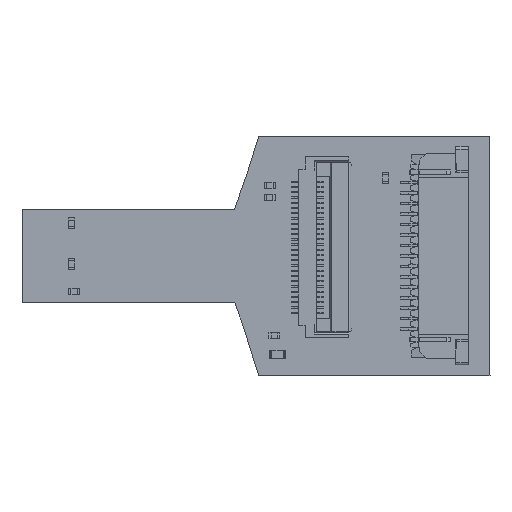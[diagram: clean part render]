
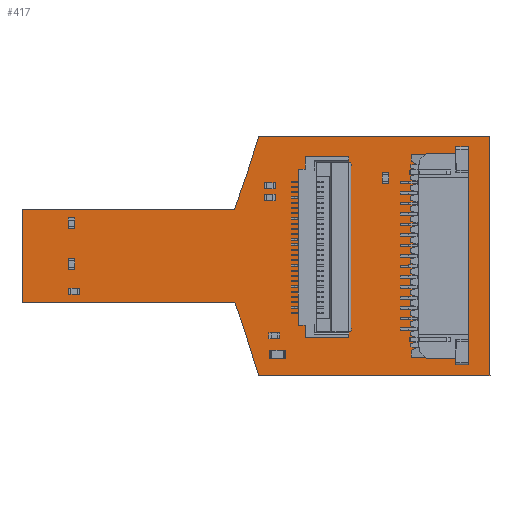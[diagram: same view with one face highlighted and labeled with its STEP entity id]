
A CAD part, top view. The second image highlights one B-rep face of the part: STEP entity #417.
In plain terms, the highlighted planar face has unit normal (0, 0, 1).
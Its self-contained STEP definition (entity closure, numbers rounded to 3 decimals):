
#96 = VERTEX_POINT('',#97);
#97 = CARTESIAN_POINT('',(49.276,25.4,1.051));
#103 = EDGE_CURVE('',#96,#104,#106,.T.);
#104 = VERTEX_POINT('',#105);
#105 = CARTESIAN_POINT('',(47.803,30.099,1.051));
#106 = LINE('',#107,#108);
#107 = CARTESIAN_POINT('',(49.276,25.4,1.051));
#108 = VECTOR('',#109,1.);
#109 = DIRECTION('',(-0.299,0.954,0.));
#134 = EDGE_CURVE('',#104,#135,#137,.T.);
#135 = VERTEX_POINT('',#136);
#136 = CARTESIAN_POINT('',(46.99,32.385,1.051));
#137 = LINE('',#138,#139);
#138 = CARTESIAN_POINT('',(47.803,30.099,1.051));
#139 = VECTOR('',#140,1.);
#140 = DIRECTION('',(-0.335,0.942,0.));
#165 = EDGE_CURVE('',#135,#166,#168,.T.);
#166 = VERTEX_POINT('',#167);
#167 = CARTESIAN_POINT('',(26.67,32.385,1.051));
#168 = LINE('',#169,#170);
#169 = CARTESIAN_POINT('',(46.99,32.385,1.051));
#170 = VECTOR('',#171,1.);
#171 = DIRECTION('',(-1.,0.,0.));
#196 = EDGE_CURVE('',#166,#197,#199,.T.);
#197 = VERTEX_POINT('',#198);
#198 = CARTESIAN_POINT('',(26.67,41.275,1.051));
#199 = LINE('',#200,#201);
#200 = CARTESIAN_POINT('',(26.67,32.385,1.051));
#201 = VECTOR('',#202,1.);
#202 = DIRECTION('',(0.,1.,0.));
#227 = EDGE_CURVE('',#197,#228,#230,.T.);
#228 = VERTEX_POINT('',#229);
#229 = CARTESIAN_POINT('',(46.965,41.275,1.051));
#230 = LINE('',#231,#232);
#231 = CARTESIAN_POINT('',(26.67,41.275,1.051));
#232 = VECTOR('',#233,1.);
#233 = DIRECTION('',(1.,0.,0.));
#258 = EDGE_CURVE('',#228,#259,#261,.T.);
#259 = VERTEX_POINT('',#260);
#260 = CARTESIAN_POINT('',(48.171,44.691,1.051));
#261 = LINE('',#262,#263);
#262 = CARTESIAN_POINT('',(46.965,41.275,1.051));
#263 = VECTOR('',#264,1.);
#264 = DIRECTION('',(0.333,0.943,0.));
#289 = EDGE_CURVE('',#259,#290,#292,.T.);
#290 = VERTEX_POINT('',#291);
#291 = CARTESIAN_POINT('',(49.276,48.235,1.051));
#292 = LINE('',#293,#294);
#293 = CARTESIAN_POINT('',(48.171,44.691,1.051));
#294 = VECTOR('',#295,1.);
#295 = DIRECTION('',(0.298,0.955,0.));
#320 = EDGE_CURVE('',#290,#321,#323,.T.);
#321 = VERTEX_POINT('',#322);
#322 = CARTESIAN_POINT('',(71.363,48.231,1.051));
#323 = LINE('',#324,#325);
#324 = CARTESIAN_POINT('',(49.276,48.235,1.051));
#325 = VECTOR('',#326,1.);
#326 = DIRECTION('',(1.,0.,0.));
#351 = EDGE_CURVE('',#321,#352,#354,.T.);
#352 = VERTEX_POINT('',#353);
#353 = CARTESIAN_POINT('',(71.374,25.4,1.051));
#354 = LINE('',#355,#356);
#355 = CARTESIAN_POINT('',(71.363,48.231,1.051));
#356 = VECTOR('',#357,1.);
#357 = DIRECTION('',(0.,-1.,0.));
#382 = EDGE_CURVE('',#352,#96,#383,.T.);
#383 = LINE('',#384,#385);
#384 = CARTESIAN_POINT('',(71.374,25.4,1.051));
#385 = VECTOR('',#386,1.);
#386 = DIRECTION('',(-1.,0.,0.));
#417 = ADVANCED_FACE('',(#418),#430,.F.);
#418 = FACE_BOUND('',#419,.F.);
#419 = EDGE_LOOP('',(#420,#421,#422,#423,#424,#425,#426,#427,#428,#429)
  );
#420 = ORIENTED_EDGE('',*,*,#103,.T.);
#421 = ORIENTED_EDGE('',*,*,#134,.T.);
#422 = ORIENTED_EDGE('',*,*,#165,.T.);
#423 = ORIENTED_EDGE('',*,*,#196,.T.);
#424 = ORIENTED_EDGE('',*,*,#227,.T.);
#425 = ORIENTED_EDGE('',*,*,#258,.T.);
#426 = ORIENTED_EDGE('',*,*,#289,.T.);
#427 = ORIENTED_EDGE('',*,*,#320,.T.);
#428 = ORIENTED_EDGE('',*,*,#351,.T.);
#429 = ORIENTED_EDGE('',*,*,#382,.T.);
#430 = PLANE('',#431);
#431 = AXIS2_PLACEMENT_3D('',#432,#433,#434);
#432 = CARTESIAN_POINT('',(51.329,36.819,1.051));
#433 = DIRECTION('',(-0.,-0.,-1.));
#434 = DIRECTION('',(-1.,0.,0.));
